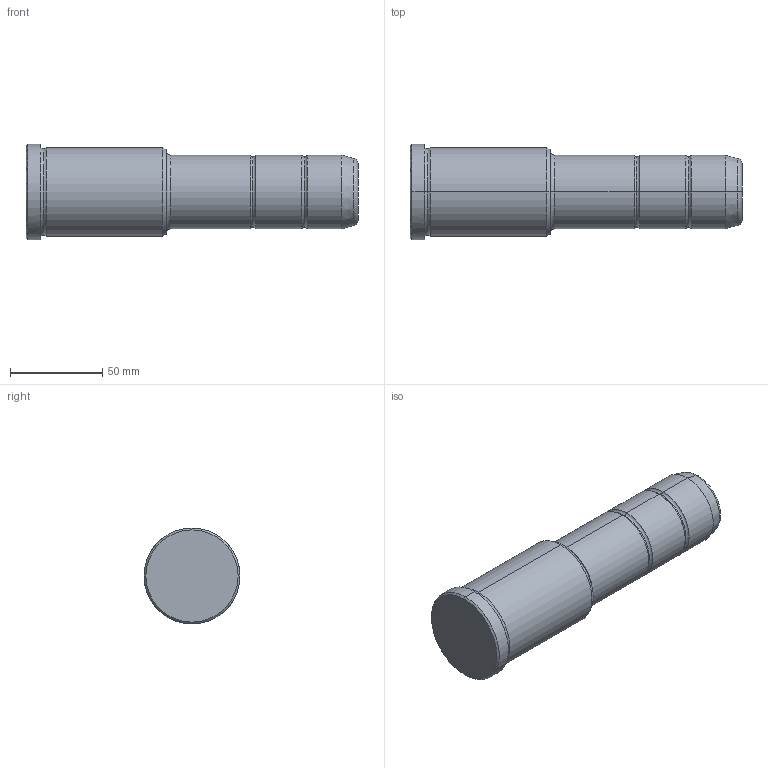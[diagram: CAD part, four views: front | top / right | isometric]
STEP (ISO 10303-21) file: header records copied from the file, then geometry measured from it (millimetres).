
FILE_DESCRIPTION(('CATIA V5 STEP Exchange'),'2;1');
FILE_NAME('C:\Users\Utente\Desktop\IO LAVORO\3D X SITO CF\X SITO\PLASTICA\351\351-40X76X180.stp','2021-10-08T06:42:19+00:00',('none'),('none'),'CATIA Version 5 Release 20 GA (IN-10)','CATIA V5 STEP AP203','none');
FILE_SCHEMA(('CONFIG_CONTROL_DESIGN'));
Length unit declared in the file: millimetre
Products named in the file (1): 351-40X76X180
Bounding box: 180 x 52 x 52 mm (x, y, z)
Volume: 268546 mm3; surface area: 28325.4 mm2
Topology: 1 solids, 1 shells, 36 faces, 102 edges, 70 vertices
Faces by surface type: torus 16, cylinder 10, cone 6, plane 4
Entity records: 1292 total; most frequent: CARTESIAN_POINT 321, ORIENTED_EDGE 204, DIRECTION 166, AXIS2_PLACEMENT_3D 115, EDGE_CURVE 102, CIRCLE 78, VERTEX_POINT 70, EDGE_LOOP 38
